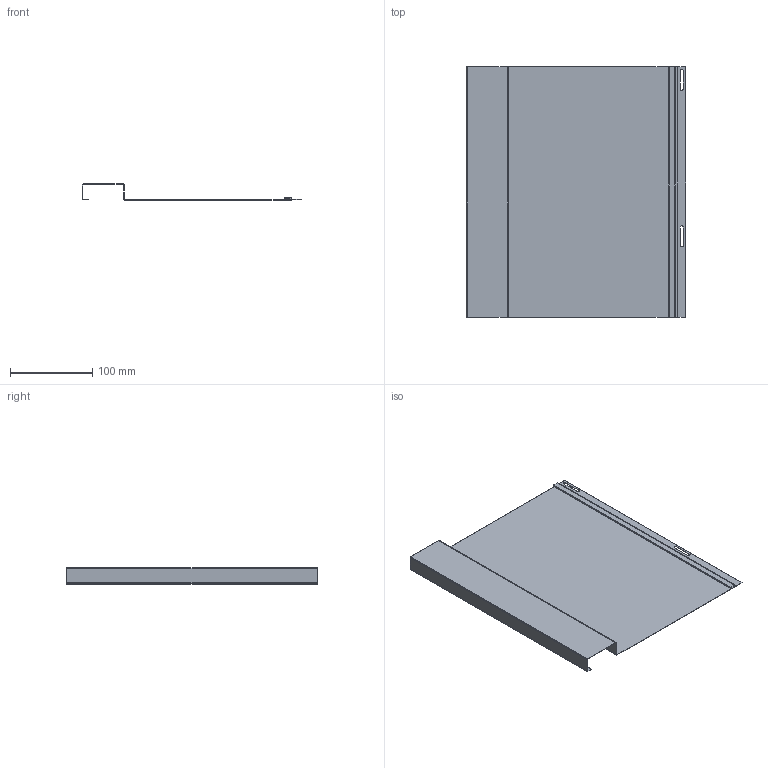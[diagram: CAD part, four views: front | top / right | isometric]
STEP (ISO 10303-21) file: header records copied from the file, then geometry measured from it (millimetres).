
FILE_DESCRIPTION(('STEP AP242 Edition 2','STEP AP242 Edition 2''CAx-IF Rec.Pracs.---Representation and Presentation of Product Manufacturing Information (PMI)---4.0---2014-10-13','STEP AP242 Edition 2''CAx-IF Rec.Pracs.---Representation and Presentation of Product Manufacturing Information (PMI)---4.0---2014-10-13''CAx-IF Rec.Pracs.---3D Tessellated Geometry---0.4---2014-09-14','STEP AP242 Edition 2''CAx-IF Rec.Pracs.---Representation and Presentation of Product Manufacturing Information (PMI)---4.0---2014-10-13''CAx-IF Rec.Pracs.---3D Tessellated Geometry---0.4---2014-09-14''2;1','STEP AP242 Edition 2''CAx-IF Rec.Pracs.---Representation and Presentation of Product Manufacturing Information (PMI)---4.0---2014-10-13''CAx-IF Rec.Pracs.---3D Tessellated Geometry---0.4---2014-09-14''2;1''CAx-IF Rec.Pracs.---User Defined Attributes---1.5---2016-08-15'),'2;1');
FILE_NAME('/vol/tmp/translate-16118123331404248921/Part Studio 1 - Part 1.step','2026-03-16T20:35:55',(''),(''),'ST-DEVELOPER v20','ONSHAPE BY PTC INC, 1.212',' ');
FILE_SCHEMA(('AP242_MANAGED_MODEL_BASED_3D_ENGINEERING_MIM_LF { 1 0 10303 442 3 1 4 }'));
Length unit declared in the file: metre
Products named in the file (1): Part 1
Bounding box: 266.85 x 304.8 x 19.51 mm (x, y, z)
Volume: 45809.3 mm3; surface area: 201020.7 mm2
Topology: 1 solids, 1 shells, 86 faces, 188 edges, 104 vertices
Faces by surface type: plane 62, cylinder 24
Entity records: 2298 total; most frequent: DIRECTION 410, CARTESIAN_POINT 379, ORIENTED_EDGE 376, EDGE_CURVE 188, LINE 140, VECTOR 140, AXIS2_PLACEMENT_3D 135, VERTEX_POINT 104
